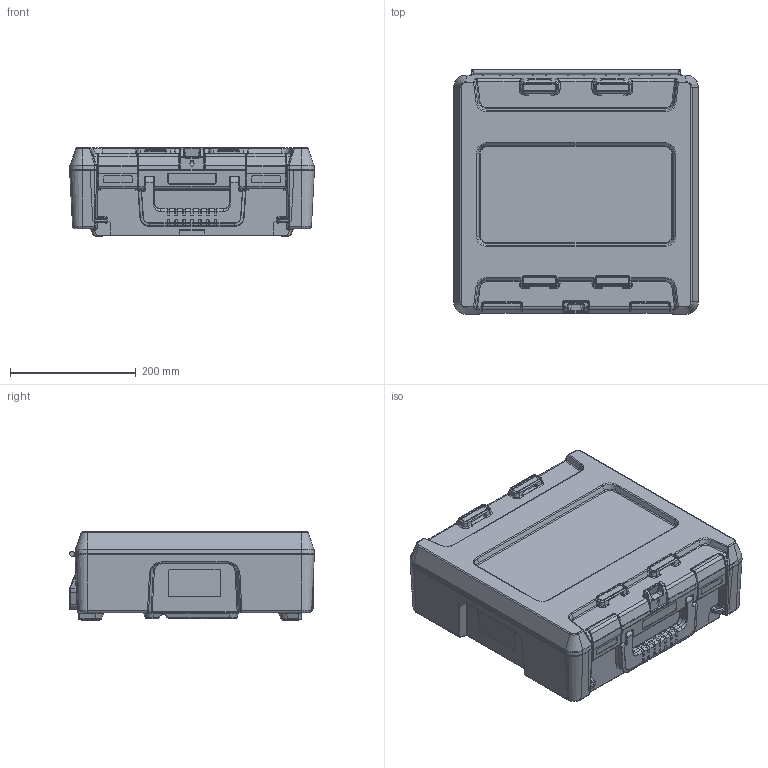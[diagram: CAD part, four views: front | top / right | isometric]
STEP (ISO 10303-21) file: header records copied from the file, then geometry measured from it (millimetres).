
FILE_DESCRIPTION(/* description */ (''),/* implementation_level */ '2;1');
FILE_NAME(/* name */ '4414_mit_Fach.stp',/* time_stamp */ '2018-11-12T13:33:17+01:00',/* author */ (''),/* organization */ (''),/* preprocessor_version */ 'ST-DEVELOPER v16.7',/* originating_system */ 'SIEMENS PLM Software NX 12.0',/* authorisation */ '');
FILE_SCHEMA (('AUTOMOTIVE_DESIGN { 1 0 10303 214 3 1 1 1 }'));
Products named in the file (1): sn1828710C2o45
Bounding box: 390 x 390 x 140.5 mm (x, y, z)
Volume: 1869334.5 mm3; surface area: 1259737.7 mm2
Topology: 13 solids, 16 shells, 8682 faces, 20942 edges, 12556 vertices
Faces by surface type: plane 3440, cylinder 2366, bspline 1937, torus 498, cone 316, sphere 121, extrusion 4
Full cylindrical faces by diameter (mm): 8 x1
Entity records: 308714 total; most frequent: CARTESIAN_POINT 114608, ORIENTED_EDGE 41482, DIRECTION 38436, EDGE_CURVE 20741, AXIS2_PLACEMENT_3D 13679, VERTEX_POINT 12548, VECTOR 11078, LINE 11074
